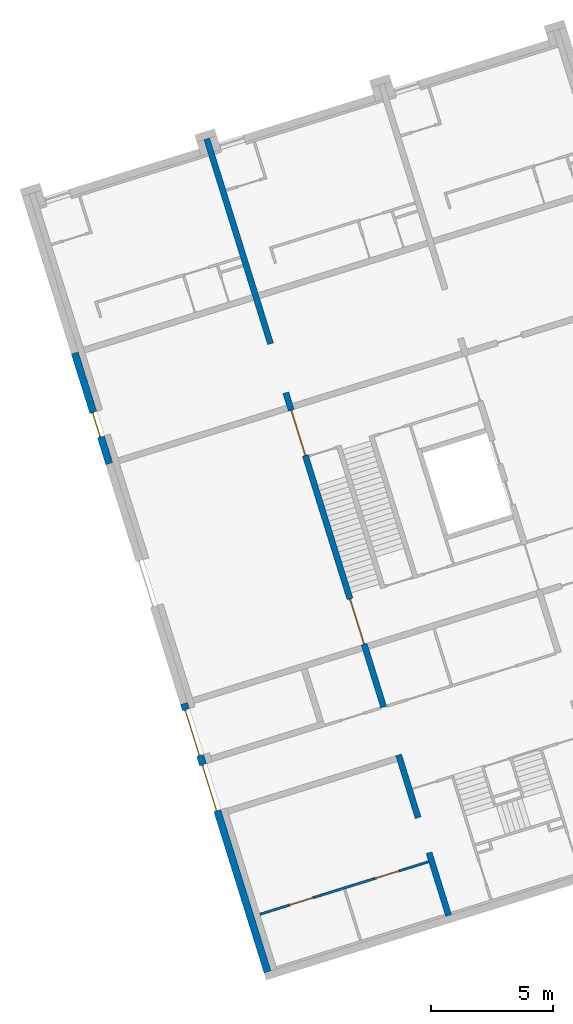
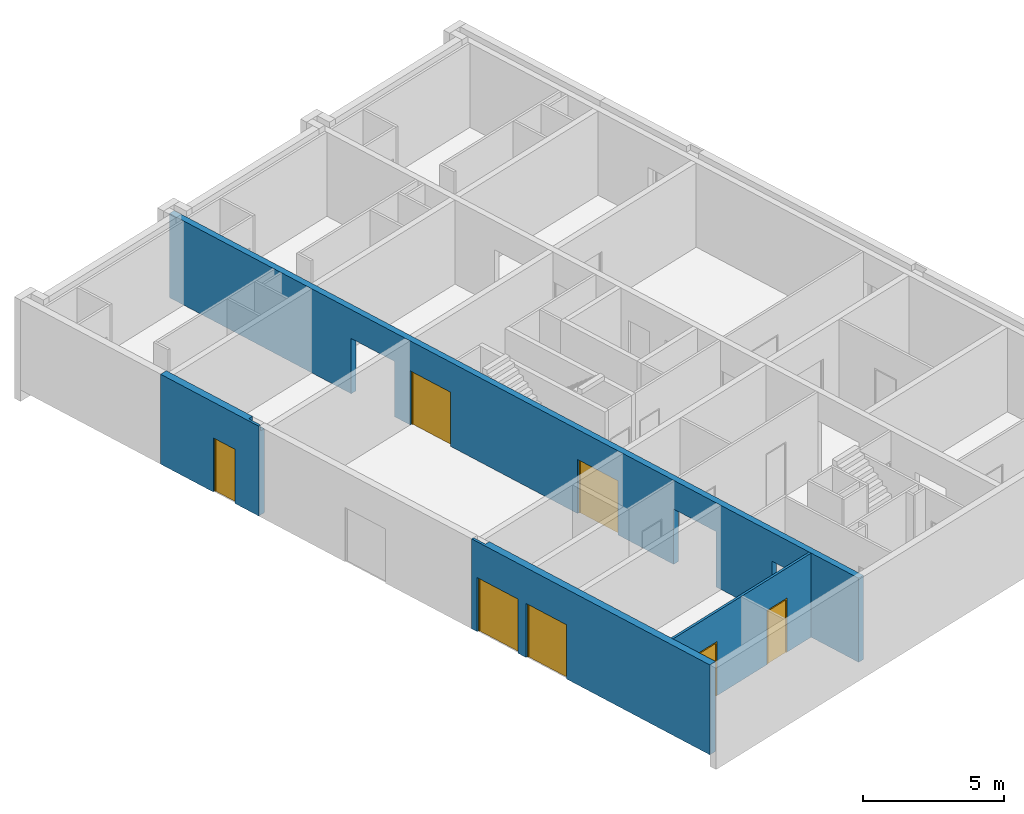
# One storey, part 7 of 10: 7 doors, 4 walls, 10 openings.
"""IFC4 building model written with IfcOpenShell, lengths in metres."""

from ifc_helpers import new_model, entity, si_unit, converted_unit, direction, frame, origin, place, context, subcontext, project, spatial, indexed_curve, outline, extrude, polygons, source, transform, mapped, material, constituent, constituent_set, type_object, type_shapes, element, fill, save


model = new_model("IFC4")

# Units and contexts
model_context = context("Model", 3, precision=1e-05, world=origin(), true_north=direction((6.12323399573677e-17, 1.0)))
body_context = subcontext(model_context, "Body", "Model", "MODEL_VIEW")
ifc_project = project(units=[si_unit("LENGTHUNIT", "METRE"), si_unit("AREAUNIT", "SQUARE_METRE"), converted_unit("PLANEANGLEUNIT", "DEGREE", entity("IfcPlaneAngleMeasure", 0.0174532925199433), si_unit("PLANEANGLEUNIT", "RADIAN"), dimensions=[0, 0, 0, 0, 0, 0, 0]), si_unit("VOLUMEUNIT", "CUBIC_METRE")], contexts=[model_context])

# Site, building, storey
site_placement = place(None, frame((13.1347999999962, 11.9886000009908, 0.0), z_axis=(0.0, 0.0, 1.0), x_axis=(0.954770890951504, 0.297342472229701, 0.0)))
site = spatial("IfcSite", under=ifc_project, at=site_placement, Name="Schiehaven", CompositionType="ELEMENT")
building_placement = place(site_placement, origin())
building = spatial("IfcBuilding", under=site, at=building_placement, Name="VORM huis", CompositionType="ELEMENT")
storey_placement = place(building_placement, origin())
storey = spatial("IfcBuildingStorey", under=building, at=storey_placement, Name="00 begane grond", CompositionType="ELEMENT", Elevation=0.0)

# Wall, openings, doors
ifc_material_1 = material(Name="beton_gewapend_ihw", Category="Miscellaneous")
wall_type_1 = type_object("IfcWallType", Name="Basic Wall:28_WA_skelet_wand 250mm_gen", PredefinedType="STANDARD")
wall_1_placement = place(storey_placement, frame((65.0, 33.7249999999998, 0.0), z_axis=(0.0, 0.0, 1.0), x_axis=(0.0, -1.0, 0.0)))
wall_1 = element("IfcWall", 1, at=wall_1_placement, inside=storey, type_object=wall_type_1, material=ifc_material_1, Name="Constructieve wand", ObjectType="Wand", PredefinedType="NOTDEFINED", context=body_context, shape_type="Tessellation", body=[
    polygons([(33.35, -0.125000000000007, 0.0), (33.35, -0.125000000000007, 3.65), (4.33146851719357e-15, -0.125000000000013, 3.65), (4.33146851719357e-15, -0.125000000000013, 0.0), (8.79999999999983, -0.125000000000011, 0.0), (8.79999999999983, -0.125000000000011, 2.4), (10.8999999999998, -0.125000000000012, 2.4), (10.8999999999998, -0.125000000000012, 0.0), (11.65, -0.125000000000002, 0.0), (11.65, -0.125000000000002, 2.34999999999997), (13.6, -0.125000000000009, 2.34999999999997), (13.6, -0.125000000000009, 0.0), (19.75, -0.125000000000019, 0.0), (19.75, -0.125000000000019, 2.34999999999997), (21.7, -0.125000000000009, 2.34999999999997), (21.7, -0.125000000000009, 0.0), (24.4499999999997, -0.124999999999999, 0.0), (24.4499999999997, -0.124999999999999, 2.4), (26.4499999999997, -0.124999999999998, 2.4), (26.4499999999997, -0.125000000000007, 0.0), (29.1499999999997, -0.125000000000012, 0.0), (29.1499999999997, -0.124999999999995, 2.4), (30.6499999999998, -0.12500000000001, 2.4), (30.6499999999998, -0.12500000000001, 0.0), (33.35, 0.124999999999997, 3.65), (33.35, 0.124999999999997, 0.0), (30.6499999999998, 0.124999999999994, 0.0), (30.6499999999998, 0.124999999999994, 2.4), (29.1499999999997, 0.125, 2.4), (29.1499999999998, 0.125, 0.0), (26.4499999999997, 0.125000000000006, 0.0), (26.4499999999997, 0.125000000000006, 2.4), (24.4499999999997, 0.124999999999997, 2.4), (24.4499999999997, 0.124999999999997, 0.0), (24.3499999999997, 0.124999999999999, 0.0), (21.95, 0.124999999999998, 0.0), (21.7, 0.124999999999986, 0.0), (21.7, 0.124999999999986, 2.34999999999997), (19.75, 0.124999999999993, 2.34999999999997), (19.75, 0.124999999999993, 0.0), (13.6, 0.125000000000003, 0.0), (13.6, 0.125000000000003, 2.34999999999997), (11.65, 0.124999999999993, 2.34999999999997), (11.65, 0.124999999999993, 0.0), (11.4, 0.124999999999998, 0.0), (10.8999999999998, 0.124999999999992, 0.0), (10.8999999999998, 0.124999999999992, 2.4), (8.79999999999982, 0.124999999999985, 2.4), (8.79999999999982, 0.125000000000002, 0.0), (0.0, 0.124999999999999, 0.0), (0.0, 0.124999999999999, 3.65), (11.4, 0.124999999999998, 3.65), (11.65, 0.124999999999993, 3.65), (21.7, 0.124999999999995, 3.65), (21.95, 0.124999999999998, 3.65), (24.3499999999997, 0.124999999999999, 3.65), (24.4499999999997, 0.124999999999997, 3.65)], [[[1, 2, 3, 4, 5, 6, 7, 8, 9, 10, 11, 12, 13, 14, 15, 16, 17, 18, 19, 20, 21, 22, 23, 24]], [[25, 26, 27, 28, 29, 30, 31, 32, 33, 34, 35, 36, 37, 38, 39, 40, 41, 42, 43, 44, 45, 46, 47, 48, 49, 50, 51, 52, 53, 54, 55, 56, 57]], [[4, 50, 49, 5]], [[2, 1, 26, 25]], [[3, 2, 25, 57, 56, 55, 54, 53, 52, 51]], [[4, 3, 51, 50]], [[6, 48, 47, 7]], [[48, 6, 5, 49]], [[7, 47, 46, 8]], [[16, 15, 38, 37]], [[14, 13, 40, 39]], [[15, 14, 39, 38]], [[43, 10, 9, 44]], [[11, 42, 41, 12]], [[10, 43, 42, 11]], [[22, 29, 28, 23]], [[29, 22, 21, 30]], [[23, 28, 27, 24]], [[32, 19, 18, 33]], [[19, 32, 31, 20]], [[33, 18, 17, 34]], [[8, 46, 45, 44, 9]], [[16, 37, 36, 35, 34, 17]], [[40, 13, 12, 41]], [[30, 21, 20, 31]], [[26, 1, 24, 27]]], closed=True),
])
opening_1_placement = place(wall_1_placement, origin())
element("IfcOpeningElement", 2, at=opening_1_placement, cuts=wall_1, Name="Constructieve wand", PredefinedType="OPENING", context=body_context, shape_type="SweptSolid", body=[
    extrude(outline(indexed_curve([(-1.2, -1.05), (1.2, -1.05), (1.2, 1.05), (-1.2, 1.05), (-1.2, -1.05)], self_intersect=False)), frame((9.84999999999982, -0.124999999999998, 1.2), z_axis=(0.0, 1.0, 0.0), x_axis=(0.0, 0.0, -1.0)), (0.0, 0.0, 1.0), 0.249999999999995),
])
opening_2_placement = place(wall_1_placement, origin())
element("IfcOpeningElement", 3, at=opening_2_placement, cuts=wall_1, Name="Constructieve wand", PredefinedType="OPENING", context=body_context, shape_type="SweptSolid", body=[
    extrude(outline(indexed_curve([(-1.2, -0.750000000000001), (1.2, -0.750000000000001), (1.2, 0.750000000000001), (-1.2, 0.750000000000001), (-1.2, -0.750000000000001)], self_intersect=False)), frame((29.8999999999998, -0.124999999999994, 1.2), z_axis=(0.0, 1.0, 0.0), x_axis=(0.0, 0.0, -1.0)), (0.0, 0.0, 1.0), 0.249999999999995),
])
opening_3_placement = place(wall_1_placement, origin())
element("IfcOpeningElement", 4, at=opening_3_placement, cuts=wall_1, Name="Constructieve wand", PredefinedType="OPENING", context=body_context, shape_type="SweptSolid", body=[
    extrude(outline(indexed_curve([(-1.2, -1.025), (1.2, -1.025), (1.2, 1.025), (-1.2, 1.025), (-1.2, -1.025)], self_intersect=False)), frame((25.4249999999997, -0.124999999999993, 1.2), z_axis=(0.0, 1.0, 0.0), x_axis=(0.0, 0.0, -1.0)), (0.0, 0.0, 1.0), 0.249999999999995),
])
opening_4_placement = place(wall_1_placement, frame((21.7, 0.125000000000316, 0.0)))
opening_4 = element("IfcOpeningElement", 5, at=opening_4_placement, cuts=wall_1, Name="Vluchtdeur", PredefinedType="OPENING", context=body_context, shape_type="SweptSolid", body=[
    extrude(outline(indexed_curve([(2.34999999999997, 1.50459585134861e-28), (2.34999999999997, 1.95), (0.0, 1.95), (0.0, 1.50459585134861e-28), (2.34999999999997, 1.50459585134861e-28)], self_intersect=False)), frame((0.0, 0.0, 0.0), z_axis=(0.0, -1.0, 0.0), x_axis=(0.0, 0.0, 1.0)), (0.0, 0.0, 1.0), 0.25),
])
opening_5_placement = place(wall_1_placement, frame((13.6, 0.125000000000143, 0.0)))
opening_5 = element("IfcOpeningElement", 6, at=opening_5_placement, cuts=wall_1, Name="Vluchtdeur", PredefinedType="OPENING", context=body_context, shape_type="SweptSolid", body=[
    extrude(outline(indexed_curve([(2.34999999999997, 1.95), (0.0, 1.95), (0.0, 2.16573425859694e-15), (2.34999999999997, 2.16573425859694e-15), (2.34999999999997, 1.95)], self_intersect=False)), frame((0.0, 0.0, 0.0), z_axis=(0.0, -1.0, 0.0), x_axis=(0.0, 0.0, 1.0)), (0.0, 0.0, 1.0), 0.25),
])
ifc_material_2 = material(Name="PD_a_binnenwandopeningen", Category="Miscellaneous")
ifc_constituent_1 = constituent(ifc_material_2, Name="PD_a_binnenwandopeningen", Category="Miscellaneous")
ifc_material_3 = material(Name="metaal_aluminium_ntb", Category="Miscellaneous")
ifc_constituent_2 = constituent(ifc_material_3, Name="metaal_aluminium_ntb", Category="Miscellaneous")
ifc_constituent_set_1 = constituent_set(constituents=[ifc_constituent_1, ifc_constituent_2])
ifc_constituent_3 = constituent(ifc_material_2, Name="PD_a_binnenwandopeningen", Category="Miscellaneous")
ifc_constituent_4 = constituent(ifc_material_3, Name="Panel", Category="Miscellaneous")
ifc_constituent_set_2 = constituent_set(constituents=[ifc_constituent_3, ifc_constituent_4])
door_type_1 = type_object("IfcDoorType", Name="32_DO_binnendeur dubbel:binnendeur zelfsluitend 30min", OperationType="NOTDEFINED", PredefinedType="DOOR", material=ifc_constituent_set_2)
shared_shape_1 = source(origin(), body_context, "Body", "SweptSolid", [
    extrude(outline(indexed_curve([(0.925, -1.16249999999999), (0.975, -1.16249999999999), (0.975, 1.18749999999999), (-0.975, 1.18749999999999), (-0.975, -1.16249999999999), (-0.925, -1.16249999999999), (-0.925, 1.13749999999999), (0.925, 1.13749999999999), (0.925, -1.16249999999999)], self_intersect=False)), frame((0.975000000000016, 0.175000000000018, 1.16249999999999), z_axis=(0.0, -1.0, 0.0), x_axis=(1.0, 0.0, 0.0)), (0.0, 0.0, 1.0), 0.1),
    extrude(outline(indexed_curve([(-0.462499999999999, -0.025), (0.462499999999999, -0.025), (0.462499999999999, 0.025), (-0.462499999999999, 0.025), (-0.462499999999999, -0.025)], self_intersect=False)), frame((0.512500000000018, 0.124999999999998, 0.0)), (0.0, 0.0, 1.0), 2.29999999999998),
    extrude(outline(indexed_curve([(-0.4625, -0.025), (0.4625, -0.025), (0.4625, 0.025), (-0.4625, 0.025), (-0.4625, -0.025)], self_intersect=False)), frame((1.43750000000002, 0.125000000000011, 0.0)), (0.0, 0.0, 1.0), 2.29999999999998),
])
type_shapes(door_type_1, [shared_shape_1])
door_1_placement = place(opening_4_placement, frame((0.0, 0.0, 0.0), z_axis=(0.0, 0.0, 1.0), x_axis=(-1.0, 0.0, 0.0)))
door_1 = element("IfcDoor", 7, at=door_1_placement, inside=storey, type_object=door_type_1, material=ifc_constituent_set_1, Name="Vluchtdeur", ObjectType="Deur", OperationType="NOTDEFINED", OverallHeight=2.34999999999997, OverallWidth=1.95, PredefinedType="DOOR", context=body_context, shape_type="MappedRepresentation", body=[
    mapped(shared_shape_1, transform((0.0, 0.0, 0.0), scale=1.0)),
])
fill(opening_4, door_1)
ifc_constituent_5 = constituent(ifc_material_2, Name="PD_a_binnenwandopeningen", Category="Miscellaneous")
ifc_constituent_6 = constituent(ifc_material_3, Name="metaal_aluminium_ntb", Category="Miscellaneous")
ifc_constituent_set_3 = constituent_set(constituents=[ifc_constituent_5, ifc_constituent_6])
ifc_constituent_7 = constituent(ifc_material_2, Name="PD_a_binnenwandopeningen", Category="Miscellaneous")
ifc_constituent_8 = constituent(ifc_material_3, Name="Panel", Category="Miscellaneous")
ifc_constituent_set_4 = constituent_set(constituents=[ifc_constituent_7, ifc_constituent_8])
door_type_2 = type_object("IfcDoorType", Name="32_DO_binnendeur dubbel:binnendeur zelfsluitend 30min", OperationType="NOTDEFINED", PredefinedType="DOOR", material=ifc_constituent_set_4)
shared_shape_2 = source(origin(), body_context, "Body", "SweptSolid", [
    extrude(outline(indexed_curve([(-1.16249999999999, -0.975), (1.18749999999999, -0.975), (1.18749999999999, 0.975), (-1.16249999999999, 0.975), (-1.16249999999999, 0.925), (1.13749999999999, 0.925), (1.13749999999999, -0.925), (-1.16249999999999, -0.925), (-1.16249999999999, -0.975)], self_intersect=False)), frame((0.975, 0.075000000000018, 1.16249999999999), z_axis=(0.0, 1.0, 0.0), x_axis=(0.0, 0.0, 1.0)), (0.0, 0.0, 1.0), 0.1),
    extrude(outline(indexed_curve([(-0.025, -0.462499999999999), (0.025, -0.462499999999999), (0.025, 0.462499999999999), (-0.025, 0.462499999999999), (-0.025, -0.462499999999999)], self_intersect=False)), frame((1.4375, 0.124999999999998, 0.0), z_axis=(0.0, 0.0, 1.0), x_axis=(0.0, 1.0, 0.0)), (0.0, 0.0, 1.0), 2.29999999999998),
    extrude(outline(indexed_curve([(-0.0249999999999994, -0.4625), (0.0250000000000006, -0.4625), (0.0249999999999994, 0.4625), (-0.0250000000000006, 0.4625), (-0.0249999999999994, -0.4625)], self_intersect=False)), frame((0.5125, 0.125000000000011, 0.0), z_axis=(0.0, 0.0, 1.0), x_axis=(0.0, 1.0, 0.0)), (0.0, 0.0, 1.0), 2.29999999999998),
])
type_shapes(door_type_2, [shared_shape_2])
door_2_placement = place(opening_5_placement, frame((0.0, 0.0, 0.0), z_axis=(0.0, 0.0, 1.0), x_axis=(-1.0, 0.0, 0.0)))
door_2 = element("IfcDoor", 8, at=door_2_placement, inside=storey, type_object=door_type_2, material=ifc_constituent_set_3, Name="Vluchtdeur", ObjectType="Deur", OperationType="NOTDEFINED", OverallHeight=2.34999999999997, OverallWidth=1.95, PredefinedType="DOOR", context=body_context, shape_type="MappedRepresentation", body=[
    mapped(shared_shape_2, transform((0.0, 0.0, 0.0), scale=1.0)),
])
fill(opening_5, door_2)

# Wall, opening, door
ifc_material_4 = material(Name="ntb_ntb_ntb", Category="Miscellaneous")
wall_type_2 = type_object("IfcWallType", Name="Basic Wall: 300mm_gen", PredefinedType="STANDARD")
wall_2_placement = place(storey_placement, frame((57.225, 26.9499999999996, 0.0), z_axis=(0.0, 0.0, 1.0), x_axis=(0.0, -1.0, 0.0)))
wall_2 = element("IfcWall", 9, at=wall_2_placement, inside=storey, type_object=wall_type_2, material=ifc_material_4, Name="Gevelwand", ObjectType="Wand", PredefinedType="NOTDEFINED", context=body_context, shape_type="Tessellation", body=[
    polygons([(4.74999999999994, -0.149999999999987, 0.0), (4.74999999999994, -0.149999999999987, 3.9), (0.0, -0.149999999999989, 3.9), (0.0, -0.149999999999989, 0.0), (2.54999999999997, -0.150000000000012, 0.0), (2.54999999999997, -0.150000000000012, 2.34999999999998), (3.59999999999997, -0.149999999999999, 2.34999999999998), (3.59999999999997, -0.149999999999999, 0.0), (3.5527136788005e-15, 0.150000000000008, 0.0), (3.5527136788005e-15, 0.150000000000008, 3.9), (4.17499999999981, 0.150000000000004, 3.9), (4.17499999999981, 0.150000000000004, 3.65), (4.74999999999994, 0.15000000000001, 3.65), (4.74999999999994, 0.15000000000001, 0.0), (3.59999999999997, 0.149999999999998, 0.0), (3.59999999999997, 0.149999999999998, 2.34999999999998), (2.54999999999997, 0.149999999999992, 2.34999999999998), (2.54999999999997, 0.149999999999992, 0.0), (4.74999999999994, -0.0499999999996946, 3.65), (4.74999999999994, -0.0499999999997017, 3.9), (4.17499999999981, -0.0499999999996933, 3.9), (4.17499999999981, -0.0499999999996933, 3.65)], [[[1, 2, 3, 4, 5, 6, 7, 8]], [[9, 10, 11, 12, 13, 14, 15, 16, 17, 18]], [[4, 9, 18, 5]], [[2, 1, 14, 13, 19, 20]], [[3, 2, 20, 21, 11, 10]], [[4, 3, 10, 9]], [[7, 6, 17, 16]], [[6, 5, 18, 17]], [[8, 7, 16, 15]], [[12, 22, 19, 13]], [[21, 22, 12, 11]], [[22, 21, 20, 19]], [[14, 1, 8, 15]]], closed=True),
])
opening_6_placement = place(wall_2_placement, frame((3.59999999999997, 0.150000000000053, 0.0)))
opening_6 = element("IfcOpeningElement", 10, at=opening_6_placement, cuts=wall_2, Name="Vluchtdeur", PredefinedType="OPENING", context=body_context, shape_type="SweptSolid", body=[
    extrude(outline(indexed_curve([(2.34999999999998, 0.0), (2.34999999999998, 1.05), (0.0, 1.05), (0.0, 0.0), (2.34999999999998, 0.0)], self_intersect=False)), frame((0.0, 0.0, 0.0), z_axis=(0.0, -1.0, 0.0), x_axis=(0.0, 0.0, 1.0)), (0.0, 0.0, 1.0), 0.3),
])
ifc_material_5 = material(Name="PD_a_buitenwandopeningen", Category="Miscellaneous")
ifc_constituent_9 = constituent(ifc_material_5, Name="PD_a_buitenwandopeningen", Category="Miscellaneous")
ifc_constituent_10 = constituent(ifc_material_3, Name="metaal_aluminium_ntb", Category="Miscellaneous")
ifc_constituent_set_5 = constituent_set(constituents=[ifc_constituent_9, ifc_constituent_10])
ifc_constituent_11 = constituent(ifc_material_5, Name="PD_a_buitenwandopeningen", Category="Miscellaneous")
ifc_constituent_12 = constituent(ifc_material_3, Name="Panel", Category="Miscellaneous")
ifc_constituent_set_6 = constituent_set(constituents=[ifc_constituent_11, ifc_constituent_12])
door_type_3 = type_object("IfcDoorType", Name="31_DO_buitendeur enkel:buitendeur zelfsluitend 30min", OperationType="NOTDEFINED", PredefinedType="DOOR", material=ifc_constituent_set_6)
shared_shape_3 = source(origin(), body_context, "Body", "SweptSolid", [
    extrude(outline(indexed_curve([(0.475, -1.16249999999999), (0.525000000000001, -1.16249999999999), (0.525000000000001, 1.18749999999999), (-0.525000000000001, 1.18749999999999), (-0.525000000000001, -1.16249999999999), (-0.475, -1.16249999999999), (-0.475, 1.13749999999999), (0.475, 1.13749999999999), (0.475, -1.16249999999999)], self_intersect=False)), frame((0.525000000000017, 0.230000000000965, 1.16249999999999), z_axis=(0.0, -1.0, 0.0), x_axis=(1.0, 0.0, 0.0)), (0.0, 0.0, 1.0), 0.1),
    extrude(outline(indexed_curve([(-0.475, -0.025), (0.475, -0.025), (0.475, 0.025), (-0.475, 0.025), (-0.475, -0.025)], self_intersect=False)), frame((0.525000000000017, 0.180000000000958, 0.0)), (0.0, 0.0, 1.0), 2.29999999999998),
])
type_shapes(door_type_3, [shared_shape_3])
door_3_placement = place(opening_6_placement, frame((0.0, 0.0, 0.0), z_axis=(0.0, 0.0, 1.0), x_axis=(-1.0, 0.0, 0.0)))
door_3 = element("IfcDoor", 11, at=door_3_placement, inside=storey, type_object=door_type_3, material=ifc_constituent_set_5, Name="Vluchtdeur", ObjectType="Deur", OperationType="NOTDEFINED", OverallHeight=2.34999999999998, OverallWidth=1.05, PredefinedType="DOOR", context=body_context, shape_type="MappedRepresentation", body=[
    mapped(shared_shape_3, transform((0.0, 0.0, 0.0), scale=1.0)),
])
fill(opening_6, door_3)

# Wall, openings, doors
wall_3_placement = place(storey_placement, frame((57.2250000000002, 11.8999999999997, 0.0), z_axis=(0.0, 0.0, 1.0), x_axis=(0.0, -1.0, 0.0)))
wall_3 = element("IfcWall", 12, at=wall_3_placement, inside=storey, type_object=wall_type_2, material=ifc_material_4, Name="Gevelwand", ObjectType="Wand", PredefinedType="NOTDEFINED", context=body_context, shape_type="Tessellation", body=[
    polygons([(11.525, -0.149999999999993, 3.9), (0.0, -0.15, 3.9), (0.0, -0.15, 0.0), (0.267499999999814, -0.150000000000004, 0.0), (0.267499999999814, -0.150000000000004, 2.34999999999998), (2.23249999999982, -0.149999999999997, 2.34999999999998), (2.23249999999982, -0.149999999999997, 0.0), (2.63374999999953, -0.150000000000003, 0.0), (2.63374999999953, -0.150000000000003, 2.34999999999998), (4.59874999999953, -0.149999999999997, 2.34999999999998), (4.59874999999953, -0.149999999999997, 0.0), (11.525, -0.149999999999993, 0.0), (11.525, 0.150000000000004, 3.9), (11.525, 0.149999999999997, 3.65), (11.525, 0.150000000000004, 0.0), (4.59874999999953, 0.150000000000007, 0.0), (4.59874999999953, 0.150000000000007, 2.34999999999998), (2.63374999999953, 0.150000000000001, 2.34999999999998), (2.63374999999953, 0.150000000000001, 0.0), (2.23249999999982, 0.150000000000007, 0.0), (2.23249999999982, 0.150000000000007, 2.34999999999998), (0.267499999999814, 0.150000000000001, 2.34999999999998), (0.267499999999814, 0.150000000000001, 0.0), (1.77635683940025e-15, 0.150000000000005, 0.0), (1.77635683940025e-15, 0.150000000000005, 3.65), (0.57499999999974, 0.150000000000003, 3.65), (0.57499999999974, 0.150000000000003, 3.9), (0.574999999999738, -0.0499999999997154, 3.9), (1.77635683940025e-15, -0.0499999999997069, 3.9), (1.77635683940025e-15, -0.0499999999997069, 3.65), (0.574999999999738, -0.0499999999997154, 3.65)], [[[1, 2, 3, 4, 5, 6, 7, 8, 9, 10, 11, 12]], [[13, 14, 15, 16, 17, 18, 19, 20, 21, 22, 23, 24, 25, 26, 27]], [[3, 24, 23, 4]], [[2, 1, 13, 27, 28, 29]], [[3, 2, 29, 30, 25, 24]], [[1, 12, 15, 14, 13]], [[30, 31, 26, 25]], [[31, 28, 27, 26]], [[28, 31, 30, 29]], [[23, 22, 5, 4]], [[21, 20, 7, 6]], [[22, 21, 6, 5]], [[19, 18, 9, 8]], [[17, 16, 11, 10]], [[18, 17, 10, 9]], [[7, 20, 19, 8]], [[15, 12, 11, 16]]], closed=True),
])
opening_7_placement = place(wall_3_placement, frame((2.23249999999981, 0.150000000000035, 0.0)))
opening_7 = element("IfcOpeningElement", 13, at=opening_7_placement, cuts=wall_3, Name="Vluchtdeur", PredefinedType="OPENING", context=body_context, shape_type="SweptSolid", body=[
    extrude(outline(indexed_curve([(2.34999999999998, 1.965), (0.0, 1.965), (0.0, 0.0), (2.34999999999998, 0.0), (2.34999999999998, 1.965)], self_intersect=False)), frame((0.0, 0.0, 0.0), z_axis=(0.0, -1.0, 0.0), x_axis=(0.0, 0.0, 1.0)), (0.0, 0.0, 1.0), 0.3),
])
opening_8_placement = place(wall_3_placement, frame((4.59874999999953, 0.15000000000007, 0.0)))
opening_8 = element("IfcOpeningElement", 14, at=opening_8_placement, cuts=wall_3, Name="Vluchtdeur", PredefinedType="OPENING", context=body_context, shape_type="SweptSolid", body=[
    extrude(outline(indexed_curve([(2.34999999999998, 1.965), (0.0, 1.965), (0.0, 5.41433564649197e-16), (2.34999999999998, 5.41433564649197e-16), (2.34999999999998, 1.965)], self_intersect=False)), frame((0.0, 0.0, 0.0), z_axis=(0.0, -1.0, 0.0), x_axis=(0.0, 0.0, 1.0)), (0.0, 0.0, 1.0), 0.3),
])
ifc_constituent_13 = constituent(ifc_material_5, Name="PD_a_buitenwandopeningen", Category="Miscellaneous")
ifc_constituent_14 = constituent(ifc_material_3, Name="metaal_aluminium_ntb", Category="Miscellaneous")
ifc_constituent_set_7 = constituent_set(constituents=[ifc_constituent_13, ifc_constituent_14])
ifc_constituent_15 = constituent(ifc_material_5, Name="PD_a_buitenwandopeningen", Category="Miscellaneous")
ifc_constituent_16 = constituent(ifc_material_3, Name="Panel", Category="Miscellaneous")
ifc_constituent_set_8 = constituent_set(constituents=[ifc_constituent_15, ifc_constituent_16])
door_type_4 = type_object("IfcDoorType", Name="31_DO_buitendeur dubbel:buitendeur zelfsluitend 30min", OperationType="NOTDEFINED", PredefinedType="DOOR", material=ifc_constituent_set_8)
shared_shape_4 = source(origin(), body_context, "Body", "SweptSolid", [
    extrude(outline(indexed_curve([(-1.16249999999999, -0.982500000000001), (1.18749999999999, -0.982500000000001), (1.18749999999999, 0.982500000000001), (-1.16249999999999, 0.982500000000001), (-1.16249999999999, 0.932499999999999), (1.13749999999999, 0.9325), (1.13749999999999, -0.932499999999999), (-1.16249999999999, -0.932499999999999), (-1.16249999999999, -0.982500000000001)], self_intersect=False)), frame((0.982500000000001, 0.130000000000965, 1.16249999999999), z_axis=(0.0, 1.0, 0.0), x_axis=(0.0, 0.0, 1.0)), (0.0, 0.0, 1.0), 0.1),
    extrude(outline(indexed_curve([(-0.025, -0.466249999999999), (0.025, -0.466249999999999), (0.025, 0.466249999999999), (-0.025, 0.466249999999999), (-0.025, -0.466249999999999)], self_intersect=False)), frame((1.44875, 0.180000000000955, 0.0), z_axis=(0.0, 0.0, 1.0), x_axis=(0.0, 1.0, 0.0)), (0.0, 0.0, 1.0), 2.29999999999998),
    extrude(outline(indexed_curve([(-0.0249999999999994, -0.46625), (0.0250000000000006, -0.46625), (0.0249999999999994, 0.46625), (-0.0250000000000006, 0.466249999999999), (-0.0249999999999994, -0.46625)], self_intersect=False)), frame((0.516250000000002, 0.180000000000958, 0.0), z_axis=(0.0, 0.0, 1.0), x_axis=(0.0, 1.0, 0.0)), (0.0, 0.0, 1.0), 2.29999999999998),
])
type_shapes(door_type_4, [shared_shape_4])
door_4_placement = place(opening_7_placement, frame((0.0, 0.0, 0.0), z_axis=(0.0, 0.0, 1.0), x_axis=(-1.0, 0.0, 0.0)))
door_4 = element("IfcDoor", 15, at=door_4_placement, inside=storey, type_object=door_type_4, material=ifc_constituent_set_7, Name="Vluchtdeur", ObjectType="Deur", OperationType="NOTDEFINED", OverallHeight=2.34999999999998, OverallWidth=1.965, PredefinedType="DOOR", context=body_context, shape_type="MappedRepresentation", body=[
    mapped(shared_shape_4, transform((0.0, 0.0, 0.0), scale=1.0)),
])
fill(opening_7, door_4)
ifc_constituent_17 = constituent(ifc_material_5, Name="PD_a_buitenwandopeningen", Category="Miscellaneous")
ifc_constituent_18 = constituent(ifc_material_3, Name="metaal_aluminium_ntb", Category="Miscellaneous")
ifc_constituent_set_9 = constituent_set(constituents=[ifc_constituent_17, ifc_constituent_18])
door_5_placement = place(opening_8_placement, frame((0.0, 0.0, 0.0), z_axis=(0.0, 0.0, 1.0), x_axis=(-1.0, 0.0, 0.0)))
door_5 = element("IfcDoor", 16, at=door_5_placement, inside=storey, type_object=door_type_4, material=ifc_constituent_set_9, Name="Vluchtdeur", ObjectType="Deur", OperationType="NOTDEFINED", OverallHeight=2.34999999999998, OverallWidth=1.965, PredefinedType="DOOR", context=body_context, shape_type="MappedRepresentation", body=[
    mapped(shared_shape_4, transform((0.0, 0.0, 0.0), scale=1.0)),
])
fill(opening_8, door_5)

wall_type_3 = type_object("IfcWallType", Name="Basic Wall:22_WA_afbouw_binnenwand 100mm_gen", PredefinedType="STANDARD")
wall_4_placement = place(storey_placement, frame((57.6250000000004, 2.72499999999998, 0.0)))
wall_4 = element("IfcWall", 17, at=wall_4_placement, inside=storey, type_object=wall_type_3, material=ifc_material_4, Name="Binnenwand", ObjectType="Wand", PredefinedType="NOTDEFINED", context=body_context, shape_type="Tessellation", body=[
    polygons([(3.43122866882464e-15, -0.05, 0.0), (1.26250000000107, -0.05, 0.0), (1.26250000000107, -0.05, 2.34999999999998), (2.31250000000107, -0.05, 2.34999999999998), (2.31250000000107, -0.05, 0.0), (3.57500000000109, -0.0499999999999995, 0.0), (3.67500000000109, -0.05, 0.0), (4.93750000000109, -0.05, 0.0), (4.93750000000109, -0.05, 2.34999999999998), (5.98750000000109, -0.05, 2.34999999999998), (5.98750000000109, -0.05, 0.0), (7.25000000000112, -0.05, 0.0), (7.25000000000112, -0.05, 3.65), (3.67500000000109, -0.05, 3.65), (3.57500000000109, -0.0499999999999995, 3.65), (3.43122866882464e-15, -0.05, 3.65), (1.26250000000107, 0.05, 2.34999999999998), (1.26250000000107, 0.05, 0.0), (4.20719512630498e-15, 0.05, 0.0), (4.20719512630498e-15, 0.05, 3.65), (7.25000000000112, 0.05, 3.65), (7.25000000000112, 0.05, 0.0), (5.98750000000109, 0.05, 0.0), (5.98750000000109, 0.05, 2.34999999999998), (4.93750000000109, 0.05, 2.34999999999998), (4.93750000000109, 0.05, 0.0), (2.31250000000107, 0.05, 0.0), (2.31250000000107, 0.05, 2.34999999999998)], [[[1, 2, 3, 4, 5, 6, 7, 8, 9, 10, 11, 12, 13, 14, 15, 16]], [[17, 18, 19, 20, 21, 22, 23, 24, 25, 26, 27, 28]], [[12, 11, 23, 22]], [[13, 12, 22, 21]], [[16, 15, 14, 13, 21, 20]], [[1, 16, 20, 19]], [[26, 25, 9, 8]], [[24, 23, 11, 10]], [[25, 24, 10, 9]], [[5, 4, 28, 27]], [[3, 2, 18, 17]], [[4, 3, 17, 28]], [[19, 18, 2, 1]], [[27, 26, 8, 7, 6, 5]]], closed=True),
])
opening_9_placement = place(wall_4_placement, frame((4.9375000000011, -0.0499999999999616, 0.0)))
opening_9 = element("IfcOpeningElement", 18, at=opening_9_placement, cuts=wall_4, Name="Binnendeur", PredefinedType="OPENING", context=body_context, shape_type="SweptSolid", body=[
    extrude(outline(indexed_curve([(2.34999999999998, 0.0), (2.34999999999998, 1.05), (0.0, 1.05), (0.0, 0.0), (2.34999999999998, 0.0)], self_intersect=False)), frame((0.0, 0.0, 0.0), z_axis=(0.0, 1.0, 0.0), x_axis=(0.0, 0.0, 1.0)), (0.0, 0.0, 1.0), 0.1),
])
opening_10_placement = place(wall_4_placement, frame((1.26250000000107, -0.0499999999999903, 0.0)))
opening_10 = element("IfcOpeningElement", 19, at=opening_10_placement, cuts=wall_4, Name="Binnendeur", PredefinedType="OPENING", context=body_context, shape_type="SweptSolid", body=[
    extrude(outline(indexed_curve([(2.34999999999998, 1.05), (0.0, 1.05), (0.0, 0.0), (2.34999999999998, 0.0), (2.34999999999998, 1.05)], self_intersect=False)), frame((0.0, 0.0, 0.0), z_axis=(0.0, 1.0, 0.0), x_axis=(0.0, 0.0, 1.0)), (0.0, 0.0, 1.0), 0.1),
])
ifc_constituent_19 = constituent(ifc_material_2, Name="PD_a_binnenwandopeningen", Category="Miscellaneous")
ifc_constituent_20 = constituent(ifc_material_3, Name="metaal_aluminium_ntb", Category="Miscellaneous")
ifc_constituent_set_10 = constituent_set(constituents=[ifc_constituent_19, ifc_constituent_20])
ifc_constituent_21 = constituent(ifc_material_2, Name="PD_a_binnenwandopeningen", Category="Miscellaneous")
ifc_constituent_22 = constituent(ifc_material_3, Name="Panel", Category="Miscellaneous")
ifc_constituent_set_11 = constituent_set(constituents=[ifc_constituent_21, ifc_constituent_22])
door_type_5 = type_object("IfcDoorType", Name="32_DO_binnendeur enkel:binnendeur", OperationType="REVOLVING", PredefinedType="DOOR", material=ifc_constituent_set_11)
shared_shape_5 = source(origin(), body_context, "Body", "SweptSolid", [
    extrude(outline(indexed_curve([(0.475, -1.16249999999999), (0.525, -1.16249999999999), (0.525, 1.18749999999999), (-0.525, 1.18749999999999), (-0.525, -1.16249999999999), (-0.475, -1.16249999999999), (-0.475, 1.13749999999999), (0.475, 1.13749999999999), (0.475, -1.16249999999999)], self_intersect=False)), frame((0.525000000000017, 0.100000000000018, 1.16249999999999), z_axis=(0.0, -1.0, 0.0), x_axis=(1.0, 0.0, 0.0)), (0.0, 0.0, 1.0), 0.1),
    extrude(outline(indexed_curve([(-0.475, -0.025), (0.475, -0.025), (0.475, 0.025), (-0.475, 0.025), (-0.475, -0.025)], self_intersect=False)), frame((0.525000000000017, 0.0499999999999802, 0.0)), (0.0, 0.0, 1.0), 2.29999999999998),
])
type_shapes(door_type_5, [shared_shape_5])
door_6_placement = place(opening_9_placement, origin())
door_6 = element("IfcDoor", 20, at=door_6_placement, inside=storey, type_object=door_type_5, material=ifc_constituent_set_10, Name="Binnendeur", ObjectType="Deur", OperationType="REVOLVING", OverallHeight=2.34999999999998, OverallWidth=1.05, PredefinedType="DOOR", context=body_context, shape_type="MappedRepresentation", body=[
    mapped(shared_shape_5, transform((0.0, 0.0, 0.0), scale=1.0)),
])
fill(opening_9, door_6)
ifc_constituent_23 = constituent(ifc_material_2, Name="PD_a_binnenwandopeningen", Category="Miscellaneous")
ifc_constituent_24 = constituent(ifc_material_3, Name="metaal_aluminium_ntb", Category="Miscellaneous")
ifc_constituent_set_12 = constituent_set(constituents=[ifc_constituent_23, ifc_constituent_24])
ifc_constituent_25 = constituent(ifc_material_2, Name="PD_a_binnenwandopeningen", Category="Miscellaneous")
ifc_constituent_26 = constituent(ifc_material_3, Name="Panel", Category="Miscellaneous")
ifc_constituent_set_13 = constituent_set(constituents=[ifc_constituent_25, ifc_constituent_26])
door_type_6 = type_object("IfcDoorType", Name="32_DO_binnendeur enkel:binnendeur", OperationType="REVOLVING", PredefinedType="DOOR", material=ifc_constituent_set_13)
shared_shape_6 = source(origin(), body_context, "Body", "SweptSolid", [
    extrude(outline(indexed_curve([(-1.16249999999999, -0.525000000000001), (1.18749999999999, -0.525), (1.18749999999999, 0.525), (-1.16249999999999, 0.525), (-1.16249999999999, 0.475), (1.13749999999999, 0.475), (1.13749999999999, -0.475), (-1.16249999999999, -0.475), (-1.16249999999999, -0.525000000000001)], self_intersect=False)), frame((0.525000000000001, 0.0, 1.16249999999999), z_axis=(0.0, 1.0, 0.0), x_axis=(0.0, 0.0, 1.0)), (0.0, 0.0, 1.0), 0.1),
    extrude(outline(indexed_curve([(-0.025, -0.475), (0.025, -0.475), (0.025, 0.475), (-0.025, 0.475), (-0.025, -0.475)], self_intersect=False)), frame((0.525000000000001, 0.0499999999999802, 0.0), z_axis=(0.0, 0.0, 1.0), x_axis=(0.0, 1.0, 0.0)), (0.0, 0.0, 1.0), 2.29999999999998),
])
type_shapes(door_type_6, [shared_shape_6])
door_7_placement = place(opening_10_placement, origin())
door_7 = element("IfcDoor", 21, at=door_7_placement, inside=storey, type_object=door_type_6, material=ifc_constituent_set_12, Name="Binnendeur", ObjectType="Deur", OperationType="REVOLVING", OverallHeight=2.34999999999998, OverallWidth=1.05, PredefinedType="DOOR", context=body_context, shape_type="MappedRepresentation", body=[
    mapped(shared_shape_6, transform((0.0, 0.0, 0.0), scale=1.0)),
])
fill(opening_10, door_7)

save(model, "model.ifc")
